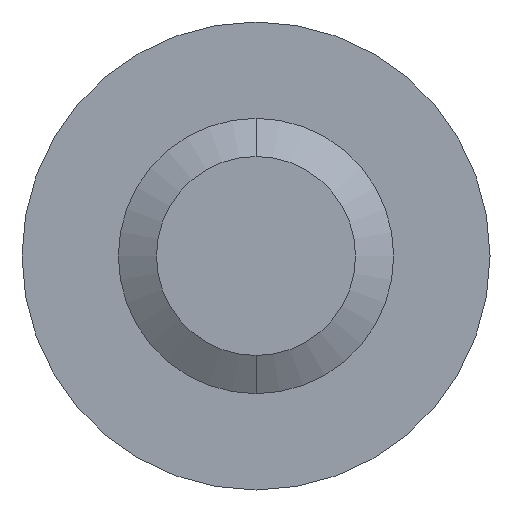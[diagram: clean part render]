
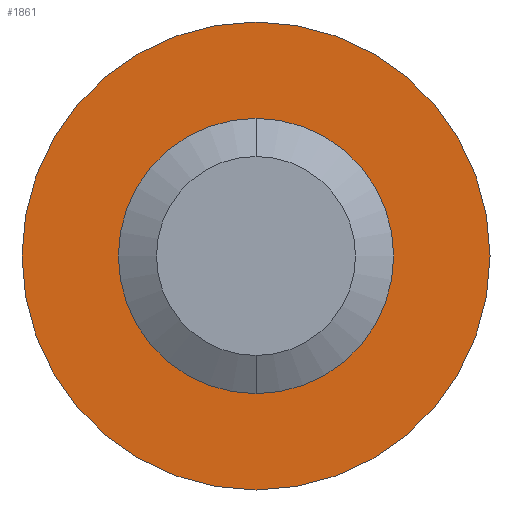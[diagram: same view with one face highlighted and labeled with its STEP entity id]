
A CAD part, front view. The second image highlights one B-rep face of the part: STEP entity #1861.
In plain terms, the highlighted planar face has unit normal (0, -1, 0).
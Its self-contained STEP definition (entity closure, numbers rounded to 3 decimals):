
#8 = DIRECTION ( 'NONE',  ( 0., 1., 0. ) ) ;
#111 = ORIENTED_EDGE ( 'NONE', *, *, #6478, .F. ) ;
#767 = CIRCLE ( 'NONE', #6113, 4.25 ) ;
#810 = CARTESIAN_POINT ( 'NONE',  ( 0., 50., -2.5 ) ) ;
#844 = DIRECTION ( 'NONE',  ( 0., 1., 0. ) ) ;
#874 = AXIS2_PLACEMENT_3D ( 'NONE', #2209, #6040, #2311 ) ;
#1027 = PLANE ( 'NONE',  #1333 ) ;
#1218 = CIRCLE ( 'NONE', #874, 2.5 ) ;
#1333 = AXIS2_PLACEMENT_3D ( 'NONE', #3207, #4834, #3314 ) ;
#1604 = VERTEX_POINT ( 'NONE', #4944 ) ;
#1650 = EDGE_CURVE ( 'NONE', #6552, #1604, #1218, .T. ) ;
#1675 = CARTESIAN_POINT ( 'NONE',  ( 0., 50., 4.25 ) ) ;
#1769 = EDGE_CURVE ( 'NONE', #3906, #6368, #767, .T. ) ;
#1861 = ADVANCED_FACE ( 'NONE', ( #3694, #3169 ), #1027, .F. ) ;
#1989 = CARTESIAN_POINT ( 'NONE',  ( 0., 50., -4.25 ) ) ;
#2085 = ORIENTED_EDGE ( 'NONE', *, *, #1769, .F. ) ;
#2105 = DIRECTION ( 'NONE',  ( 0., 0., 1. ) ) ;
#2209 = CARTESIAN_POINT ( 'NONE',  ( 0., 50., 0. ) ) ;
#2311 = DIRECTION ( 'NONE',  ( 0., 0., 1. ) ) ;
#2427 = DIRECTION ( 'NONE',  ( 0., 1., 0. ) ) ;
#2450 = CARTESIAN_POINT ( 'NONE',  ( 0., 50., 0. ) ) ;
#2589 = ORIENTED_EDGE ( 'NONE', *, *, #6072, .T. ) ;
#2760 = ORIENTED_EDGE ( 'NONE', *, *, #1650, .T. ) ;
#2936 = EDGE_LOOP ( 'NONE', ( #2085, #111 ) ) ;
#3169 = FACE_BOUND ( 'NONE', #3834, .T. ) ;
#3207 = CARTESIAN_POINT ( 'NONE',  ( 0., 50., 0. ) ) ;
#3314 = DIRECTION ( 'NONE',  ( 0., 0., 1. ) ) ;
#3327 = AXIS2_PLACEMENT_3D ( 'NONE', #5689, #2427, #4050 ) ;
#3487 = DIRECTION ( 'NONE',  ( 0., 0., 1. ) ) ;
#3694 = FACE_OUTER_BOUND ( 'NONE', #2936, .T. ) ;
#3834 = EDGE_LOOP ( 'NONE', ( #2589, #2760 ) ) ;
#3906 = VERTEX_POINT ( 'NONE', #1989 ) ;
#4050 = DIRECTION ( 'NONE',  ( 0., 0., 1. ) ) ;
#4297 = CARTESIAN_POINT ( 'NONE',  ( 0., 50., 0. ) ) ;
#4834 = DIRECTION ( 'NONE',  ( 0., 1., 0. ) ) ;
#4944 = CARTESIAN_POINT ( 'NONE',  ( 0., 50., 2.5 ) ) ;
#5471 = CIRCLE ( 'NONE', #3327, 2.5 ) ;
#5689 = CARTESIAN_POINT ( 'NONE',  ( 0., 50., 0. ) ) ;
#6040 = DIRECTION ( 'NONE',  ( 0., 1., 0. ) ) ;
#6072 = EDGE_CURVE ( 'NONE', #1604, #6552, #5471, .T. ) ;
#6113 = AXIS2_PLACEMENT_3D ( 'NONE', #4297, #8, #2105 ) ;
#6368 = VERTEX_POINT ( 'NONE', #1675 ) ;
#6478 = EDGE_CURVE ( 'NONE', #6368, #3906, #6738, .T. ) ;
#6552 = VERTEX_POINT ( 'NONE', #810 ) ;
#6738 = CIRCLE ( 'NONE', #6961, 4.25 ) ;
#6961 = AXIS2_PLACEMENT_3D ( 'NONE', #2450, #844, #3487 ) ;
